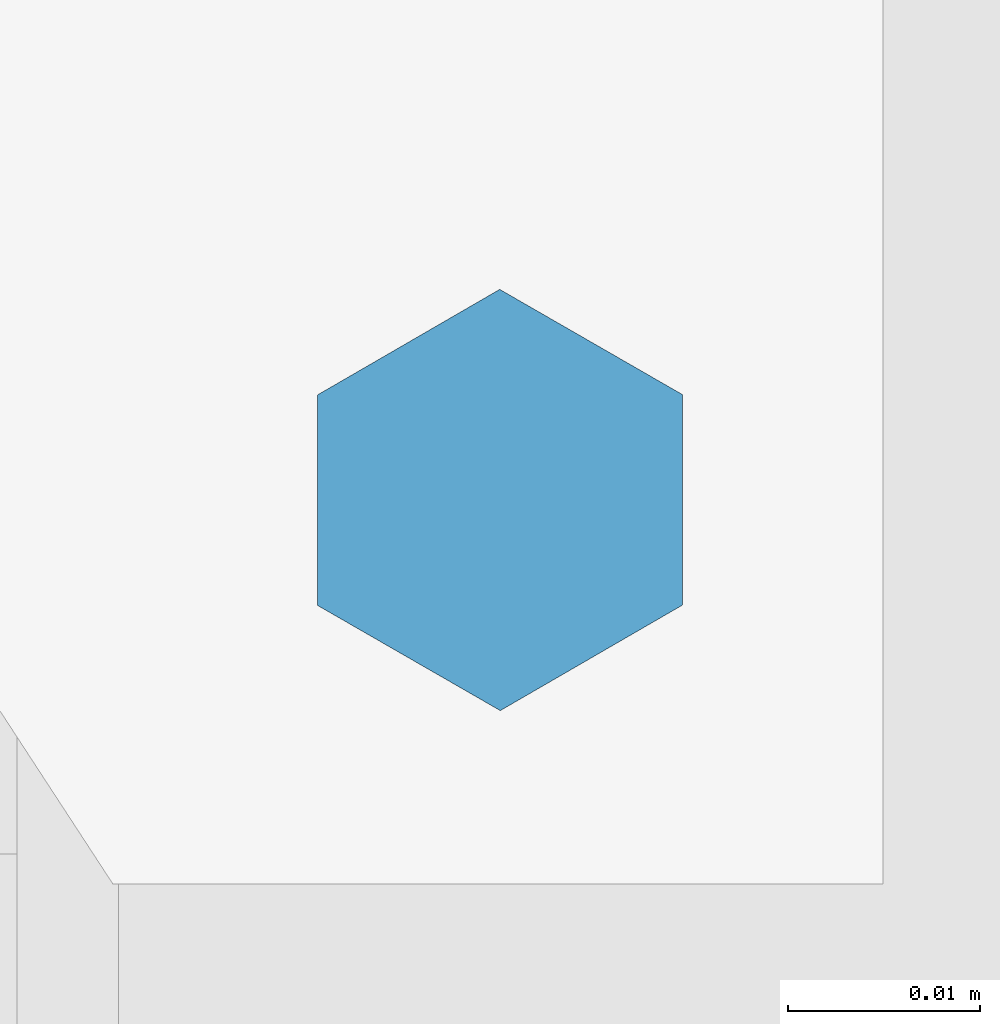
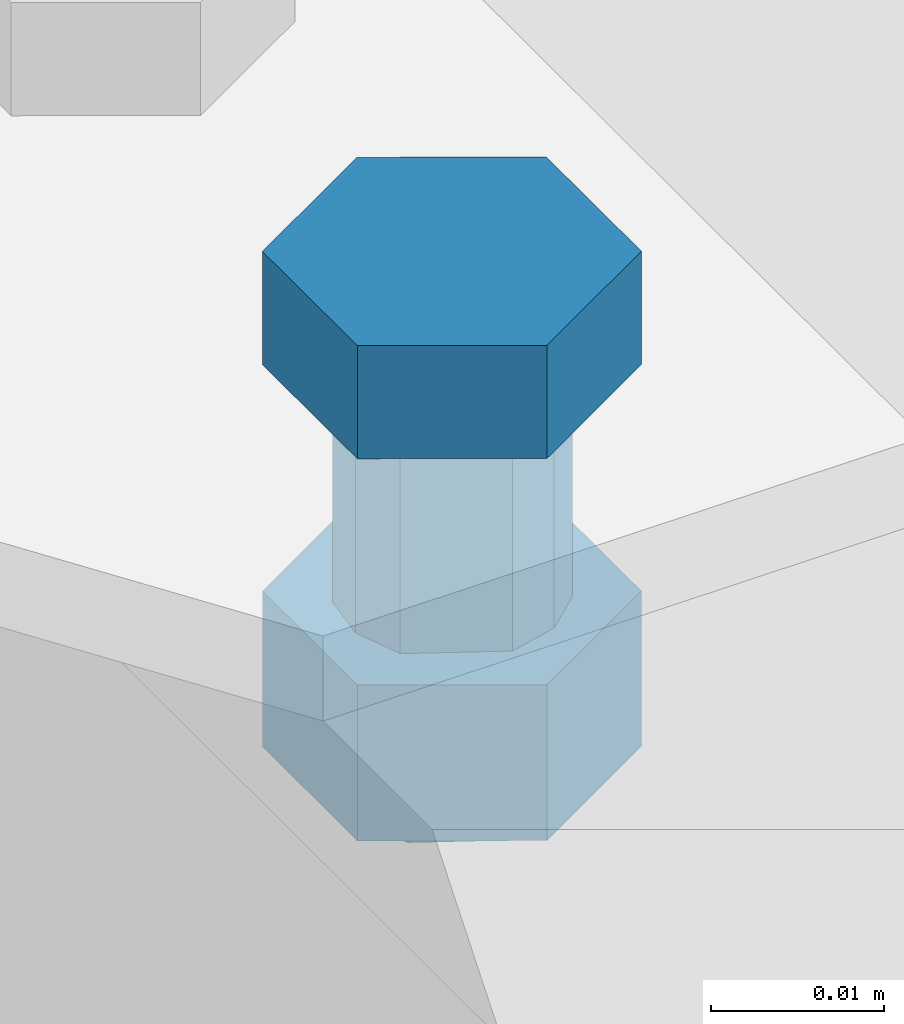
# One storey, part 18 of 18: 1 mechanical fastener.
"""IFC2X3 building model written with IfcOpenShell, lengths in millimetres."""

import ifcopenshell
import ifcopenshell.guid

model = None  # the IFC model being written
_history = None  # IfcOwnerHistory: only IFC2X3 demands one
_inside = {}  # id of a spatial element -> (the spatial element, [elements in it])
_under = {}  # id of a project, library or spatial element -> (it, [spatial elements below it])
_declared = {}  # id of a project -> (the project, [libraries it declares])
_typed = {}  # id of a type object -> (the type object, [elements of that type])
_made_of = {}  # id of a material, layer set ... -> (it, [elements and type objects made of it])


def new_model(schema):
    """Start an empty IFC model of exactly this schema.

    Asked for "IFC4X3", IfcOpenShell would pick the latest addendum, in which some entities
    have other attributes; the version numbers below select the first issue.
    IFC2X3 requires an IfcOwnerHistory on every rooted entity: one is made here for all.
    """
    global model, _history
    if schema == "IFC4X3":
        model = ifcopenshell.file(schema_version=(4, 3, 0, 0))
    else:
        model = ifcopenshell.file(schema=schema)
    _inside.clear()
    _under.clear()
    _declared.clear()
    _typed.clear()
    _made_of.clear()
    _history = None
    if model.schema == "IFC2X3":
        org = make("IfcOrganization", Name="unknown")
        user = make(
            "IfcPersonAndOrganization",
            ThePerson=make("IfcPerson", FamilyName="unknown"),
            TheOrganization=org,
        )
        app = make(
            "IfcApplication",
            ApplicationDeveloper=org,
            Version="unknown",
            ApplicationFullName="unknown",
            ApplicationIdentifier="unknown",
        )
        _history = make(
            "IfcOwnerHistory",
            OwningUser=user,
            OwningApplication=app,
            ChangeAction="ADDED",
            CreationDate=0,
        )
    return model


def make(cls, **values):
    """One entity of the class cls with the attributes given. An attribute that is None is left unset."""
    return model.create_entity(
        cls, **{name: value for name, value in values.items() if value is not None}
    )


def rooted(cls, **values):
    """An entity with a GlobalId (a new one), such as an element, a storey or a relation."""
    return make(cls, GlobalId=ifcopenshell.guid.new(), OwnerHistory=_history, **values)


def si_unit(unit_type, name, prefix=None):
    """IfcSIUnit, for example si_unit("LENGTHUNIT", "METRE", prefix="MILLI")."""
    return make("IfcSIUnit", UnitType=unit_type, Prefix=prefix, Name=name)


def assignment(units):
    """IfcUnitAssignment: the units of a project."""
    return None if units is None else make("IfcUnitAssignment", Units=units)


def point(xyz):
    """IfcCartesianPoint."""
    return None if xyz is None else make("IfcCartesianPoint", Coordinates=xyz)


def direction(xyz):
    """IfcDirection."""
    return None if xyz is None else make("IfcDirection", DirectionRatios=xyz)


def frame(location, z_axis=None, x_axis=None):
    """IfcAxis2Placement3D, a coordinate frame: its origin and axes. An axis left out is left unset."""
    return make(
        "IfcAxis2Placement3D",
        Location=point(location),
        Axis=direction(z_axis),
        RefDirection=direction(x_axis),
    )


def origin_with_axes():
    """The frame at (0, 0, 0) with the z axis (0, 0, 1) and the x axis (1, 0, 0) written out."""
    return frame((0.0, 0.0, 0.0), z_axis=(0.0, 0.0, 1.0), x_axis=(1.0, 0.0, 0.0))


def place(relative_to, where):
    """IfcLocalPlacement: puts the frame where relative to a parent placement (None: the world)."""
    return make(
        "IfcLocalPlacement", PlacementRelTo=relative_to, RelativePlacement=where
    )


def context(
    kind, dimensions, precision=None, world=None, true_north=None, identifier=None
):
    """IfcGeometricRepresentationContext, for example the 3D "Model" context."""
    return make(
        "IfcGeometricRepresentationContext",
        ContextIdentifier=identifier,
        ContextType=kind,
        CoordinateSpaceDimension=dimensions,
        Precision=precision,
        WorldCoordinateSystem=world,
        TrueNorth=true_north,
    )


def subcontext(parent, identifier, kind, view, scale=None):
    """IfcGeometricRepresentationSubContext, for example "Body" below "Model"."""
    return make(
        "IfcGeometricRepresentationSubContext",
        ContextIdentifier=identifier,
        ContextType=kind,
        ParentContext=parent,
        TargetScale=scale,
        TargetView=view,
    )


def project(units=None, contexts=None):
    """IfcProject with its units and contexts."""
    return rooted(
        "IfcProject",
        Name="project",
        RepresentationContexts=contexts,
        UnitsInContext=assignment(units),
    )


def spatial(cls, under=None, at=None, **own):
    """A site, building, storey or space (cls), placed at a placement, below another one or the project."""
    s = rooted(cls, ObjectPlacement=at, **own)
    if under is not None:
        _under.setdefault(under.id(), (under, []))[1].append(s)
    return s


def faces_of(points, faces, orient=None, outer=None):
    """IfcFace entities. A face is a list of loops; a loop is a list of indices into points, from 0.

    orient and outer hold one flag for each loop. By default every Orientation is true, the
    first loop of a face is its IfcFaceOuterBound and the others are IfcFaceBound.
    """
    made = []
    for i, loops in enumerate(faces):
        bounds = []
        for j, loop in enumerate(loops):
            is_outer = j == 0 if outer is None else outer[i][j]
            bounds.append(
                make(
                    "IfcFaceOuterBound" if is_outer else "IfcFaceBound",
                    Bound=make("IfcPolyLoop", Polygon=[points[k] for k in loop]),
                    Orientation=True if orient is None else orient[i][j],
                )
            )
        made.append(make("IfcFace", Bounds=bounds))
    return made


def faceted_brep(points, faces, orient=None, outer=None, voids=None):
    """IfcFacetedBrep: a solid bounded by flat faces; with voids (closed shells), ...WithVoids."""
    shared = [point(p) for p in points]
    hull = make("IfcClosedShell", CfsFaces=faces_of(shared, faces, orient, outer))
    if voids is None:
        return make("IfcFacetedBrep", Outer=hull)
    return make(
        "IfcFacetedBrepWithVoids",
        Outer=hull,
        Voids=[
            make(cls, CfsFaces=faces_of(shared, fs, o, b)) for cls, fs, o, b in voids
        ],
    )


def shape(context_of_items, identifier, shape_type, items):
    """IfcShapeRepresentation: the items that make up one representation, for example the "Body"."""
    return make(
        "IfcShapeRepresentation",
        ContextOfItems=context_of_items,
        RepresentationIdentifier=identifier,
        RepresentationType=shape_type,
        Items=items,
    )


def source(mapping_origin, context_of_items, identifier, shape_type, items):
    """IfcRepresentationMap: a shape defined once, which mapped items show again and again."""
    return make(
        "IfcRepresentationMap",
        MappingOrigin=mapping_origin,
        MappedRepresentation=shape(context_of_items, identifier, shape_type, items),
    )


def transform(
    local_origin,
    x_axis=None,
    y_axis=None,
    z_axis=None,
    scale=None,
    scale2=None,
    scale3=None,
    uniform=True,
):
    """IfcCartesianTransformationOperator3D, or its non-uniform kind. x_axis, y_axis, z_axis: its Axis1, 2, 3."""
    if uniform:
        return make(
            "IfcCartesianTransformationOperator3D",
            Axis1=direction(x_axis),
            Axis2=direction(y_axis),
            LocalOrigin=point(local_origin),
            Scale=scale,
            Axis3=direction(z_axis),
        )
    return make(
        "IfcCartesianTransformationOperator3DnonUniform",
        Axis1=direction(x_axis),
        Axis2=direction(y_axis),
        LocalOrigin=point(local_origin),
        Scale=scale,
        Axis3=direction(z_axis),
        Scale2=scale2,
        Scale3=scale3,
    )


def mapped(mapping_source, mapping_target):
    """IfcMappedItem: shows the shape of a source again, moved by a transform."""
    return make(
        "IfcMappedItem", MappingSource=mapping_source, MappingTarget=mapping_target
    )


def made_of(thing, what):
    """Note that an element or type object is made of a material, layer set ...; save() writes the relation."""
    if what is not None:
        _made_of.setdefault(what.id(), (what, []))[1].append(thing)
    return thing


def type_object(cls, material=None, **own):
    """A type object (cls), such as IfcWallType, which elements share."""
    return made_of(rooted(cls, **own), material)


def element(
    cls,
    number,
    at=None,
    inside=None,
    cuts=None,
    type_object=None,
    material=None,
    context=None,
    identifier="Body",
    shape_type=None,
    held_by="IfcProductDefinitionShape",
    body=None,
    shapes=None,
    **own,
):
    """One element of the class cls, such as IfcWall. Its Tag is "e" and its number.

    at: its placement. inside: the storey or other place that contains it. cuts: it is an
    opening in that element (IfcRelVoidsElement). A single representation is given by context,
    identifier, shape_type and body (its items); several are given by shapes. held_by: the class
    of the entity that holds the representations. save() writes the other relations.
    """
    e = rooted(cls, Tag="e%d" % number, ObjectPlacement=at, **own)
    if body is not None:
        shapes = [shape(context, identifier, shape_type, body)]
    if shapes is not None:
        e.Representation = make(held_by, Representations=shapes)
    if inside is not None:
        _inside.setdefault(inside.id(), (inside, []))[1].append(e)
    if cuts is not None:
        rooted(
            "IfcRelVoidsElement", RelatingBuildingElement=cuts, RelatedOpeningElement=e
        )
    if type_object is not None:
        _typed.setdefault(type_object.id(), (type_object, []))[1].append(e)
    return made_of(e, material)


def aggregate(whole, parts):
    """IfcRelAggregates: a whole, such as a stair, and the parts it consists of."""
    return rooted("IfcRelAggregates", RelatingObject=whole, RelatedObjects=parts)


def save(model, path):
    """Write the relations noted so far, then the file.

    IfcRelAggregates (storeys below a building ...), IfcRelContainedInSpatialStructure (elements
    in a storey), IfcRelDefinesByType, IfcRelAssociatesMaterial and IfcRelDeclares: one each for
    every whole, place, type object, material and project.
    """
    for whole, parts in _under.values():
        aggregate(whole, parts)
    for where, things in _inside.values():
        rooted(
            "IfcRelContainedInSpatialStructure",
            RelatedElements=things,
            RelatingStructure=where,
        )
    for kind, things in _typed.values():
        rooted("IfcRelDefinesByType", RelatedObjects=things, RelatingType=kind)
    for what, things in _made_of.values():
        rooted("IfcRelAssociatesMaterial", RelatedObjects=things, RelatingMaterial=what)
    for by, libraries in _declared.values():
        rooted("IfcRelDeclares", RelatingContext=by, RelatedDefinitions=libraries)
    model.write(path)


model = new_model("IFC2X3")

# Units and contexts
model_context = context("Model", 3, precision=1e-05, world=origin_with_axes())
body_context = subcontext(model_context, "Body", "Model", "MODEL_VIEW")
ifc_project = project(units=[si_unit("LENGTHUNIT", "METRE", prefix="MILLI"), si_unit("AREAUNIT", "SQUARE_METRE"), si_unit("VOLUMEUNIT", "CUBIC_METRE"), si_unit("MASSUNIT", "GRAM", prefix="KILO"), si_unit("TIMEUNIT", "SECOND"), si_unit("PLANEANGLEUNIT", "RADIAN"), si_unit("SOLIDANGLEUNIT", "STERADIAN"), si_unit("THERMODYNAMICTEMPERATUREUNIT", "DEGREE_CELSIUS"), si_unit("LUMINOUSINTENSITYUNIT", "LUMEN")], contexts=[model_context])

# Site, building, storey
site_placement = place(None, origin_with_axes())
site = spatial("IfcSite", under=ifc_project, at=site_placement, Name="Undefined", CompositionType="ELEMENT")
building_placement = place(site_placement, origin_with_axes())
building = spatial("IfcBuilding", under=site, at=building_placement, Name="Undefined", CompositionType="ELEMENT")
storey_placement = place(building_placement, origin_with_axes())
storey = spatial("IfcBuildingStorey", under=building, at=storey_placement, Name="Undefined", CompositionType="ELEMENT", Elevation=0.0)

# Mechanical fastener
mechanical_fastener_type = type_object("IfcMechanicalFastenerType", Name="Bolt assembly")
shared_shape = source(origin_with_axes(), body_context, "Body", "Brep", [
    faceted_brep([(10.96965511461, -14.0, 0.0), (5.484827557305, -14.0, 9.50000000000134), (-5.484827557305, -14.0, 9.50000000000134), (-10.96965511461, -14.0, 0.0), (-5.484827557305, -14.0, -9.50000000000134), (5.484827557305, -14.0, -9.50000000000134), (5.484827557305, -6.0, -9.50000000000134), (-5.484827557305, -6.0, -9.50000000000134), (-10.96965511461, -6.0, 0.0), (-5.484827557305, -6.0, 9.50000000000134), (5.484827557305, -6.0, 9.50000000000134), (10.96965511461, -6.0, 0.0), (6.0, -6.0, 0.0), (5.31273615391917, -6.0, 2.78833903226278), (3.40838848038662, -6.0, 4.93790319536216), (0.723220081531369, -6.0, 5.95625324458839), (-2.12762932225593, -6.0, 5.61009745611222), (-4.49106448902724, -6.0, 3.97873594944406), (-5.82565090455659, -6.0, 1.43589398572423), (-5.82565090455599, -6.0, -1.43589398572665), (-4.49106448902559, -6.0, -3.97873594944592), (-2.12762932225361, -6.0, -5.6100974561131), (0.723220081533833, -6.0, -5.95625324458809), (3.40838848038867, -6.0, -4.93790319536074), (3.40838848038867, 24.0, -4.93790319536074), (0.723220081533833, 24.0, -5.95625324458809), (-2.12762932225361, 24.0, -5.6100974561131), (-4.49106448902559, 24.0, -3.97873594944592), (-5.82565090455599, 24.0, -1.43589398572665), (-5.82565090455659, 24.0, 1.43589398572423), (-4.49106448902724, 24.0, 3.97873594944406), (-2.12762932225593, 24.0, 5.61009745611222), (0.723220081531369, 24.0, 5.95625324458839), (3.40838848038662, 24.0, 4.93790319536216), (5.31273615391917, 24.0, 2.78833903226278), (6.0, 24.0, 0.0), (10.96965511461, 9.99999999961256, 0.0), (5.484827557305, 9.99999999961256, 9.50000000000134), (-5.484827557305, 9.99999999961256, 9.50000000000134), (-10.96965511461, 9.99999999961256, 0.0), (-5.484827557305, 9.99999999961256, -9.50000000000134), (5.484827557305, 9.99999999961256, -9.50000000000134), (5.484827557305, 20.9999999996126, -9.50000000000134), (-5.484827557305, 20.9999999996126, -9.50000000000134), (-10.96965511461, 20.9999999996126, 0.0), (-5.484827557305, 20.9999999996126, 9.50000000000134), (5.484827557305, 20.9999999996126, 9.50000000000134), (10.96965511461, 20.9999999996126, 0.0)], [[[0, 1, 2, 3, 4, 5]], [[6, 7, 8, 9, 10, 11]], [[0, 11, 10, 1]], [[1, 10, 9, 2]], [[2, 9, 8, 3]], [[3, 8, 7, 4]], [[4, 7, 6, 5]], [[5, 6, 11, 0]], [[12, 13, 14, 15, 16, 17, 18, 19, 20, 21, 22, 23]], [[24, 25, 26, 27, 28, 29, 30, 31, 32, 33, 34, 35]], [[12, 35, 34, 13]], [[13, 34, 33, 14]], [[14, 33, 32, 15]], [[15, 32, 31, 16]], [[16, 31, 30, 17]], [[17, 30, 29, 18]], [[18, 29, 28, 19]], [[19, 28, 27, 20]], [[20, 27, 26, 21]], [[21, 26, 25, 22]], [[22, 25, 24, 23]], [[23, 24, 35, 12]], [[36, 37, 38, 39, 40, 41]], [[42, 43, 44, 45, 46, 47]], [[36, 47, 46, 37]], [[37, 46, 45, 38]], [[38, 45, 44, 39]], [[39, 44, 43, 40]], [[40, 43, 42, 41]], [[41, 42, 47, 36]]]),
    faceted_brep([(7.0, -0.100000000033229, 0.0), (6.19819217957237, -0.100000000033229, 3.25306220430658), (3.97645322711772, -0.100000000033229, 5.76088706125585), (0.843756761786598, -0.100000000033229, 6.94896211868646), (-2.48223420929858, -0.100000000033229, 6.54511369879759), (-5.23957523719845, -0.100000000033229, 4.64185860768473), (-6.79659272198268, -0.100000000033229, 1.67520965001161), (-6.79659272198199, -0.100000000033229, -1.67520965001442), (-5.23957523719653, -0.100000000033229, -4.6418586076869), (-2.48223420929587, -0.100000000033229, -6.54511369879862), (0.843756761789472, -0.100000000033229, -6.94896211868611), (3.97645322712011, -0.100000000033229, -5.7608870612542), (3.97645322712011, 9.99999999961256, -5.7608870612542), (0.843756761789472, 9.99999999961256, -6.94896211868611), (-2.48223420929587, 9.99999999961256, -6.54511369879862), (-5.23957523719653, 9.99999999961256, -4.6418586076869), (-6.79659272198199, 9.99999999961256, -1.67520965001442), (-6.79659272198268, 9.99999999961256, 1.67520965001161), (-5.23957523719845, 9.99999999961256, 4.64185860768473), (-2.48223420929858, 9.99999999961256, 6.54511369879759), (0.843756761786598, 9.99999999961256, 6.94896211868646), (3.97645322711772, 9.99999999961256, 5.76088706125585), (6.19819217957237, 9.99999999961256, 3.25306220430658), (7.0, 9.99999999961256, 0.0), (7.0, -5.9, 0.0), (6.19819217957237, -5.9, 3.25306220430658), (3.97645322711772, -5.9, 5.76088706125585), (0.843756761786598, -5.9, 6.94896211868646), (-2.48223420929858, -5.9, 6.54511369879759), (-5.23957523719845, -5.9, 4.64185860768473), (-6.79659272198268, -5.9, 1.67520965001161), (-6.79659272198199, -5.9, -1.67520965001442), (-5.23957523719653, -5.9, -4.6418586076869), (-2.48223420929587, -5.9, -6.54511369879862), (0.843756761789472, -5.9, -6.94896211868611), (3.97645322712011, -5.9, -5.7608870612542), (3.97645322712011, 0.100000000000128, -5.7608870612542), (0.843756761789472, 0.100000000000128, -6.94896211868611), (-2.48223420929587, 0.100000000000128, -6.54511369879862), (-5.23957523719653, 0.100000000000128, -4.6418586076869), (-6.79659272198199, 0.100000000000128, -1.67520965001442), (-6.79659272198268, 0.100000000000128, 1.67520965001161), (-5.23957523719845, 0.100000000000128, 4.64185860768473), (-2.48223420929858, 0.100000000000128, 6.54511369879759), (0.843756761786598, 0.100000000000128, 6.94896211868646), (3.97645322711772, 0.100000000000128, 5.76088706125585), (6.19819217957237, 0.100000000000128, 3.25306220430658), (7.0, 0.100000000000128, 0.0)], [[[0, 1, 2, 3, 4, 5, 6, 7, 8, 9, 10, 11]], [[12, 13, 14, 15, 16, 17, 18, 19, 20, 21, 22, 23]], [[0, 23, 22, 1]], [[1, 22, 21, 2]], [[2, 21, 20, 3]], [[3, 20, 19, 4]], [[4, 19, 18, 5]], [[5, 18, 17, 6]], [[6, 17, 16, 7]], [[7, 16, 15, 8]], [[8, 15, 14, 9]], [[9, 14, 13, 10]], [[10, 13, 12, 11]], [[11, 12, 23, 0]], [[24, 25, 26, 27, 28, 29, 30, 31, 32, 33, 34, 35]], [[36, 37, 38, 39, 40, 41, 42, 43, 44, 45, 46, 47]], [[24, 47, 46, 25]], [[25, 46, 45, 26]], [[26, 45, 44, 27]], [[27, 44, 43, 28]], [[28, 43, 42, 29]], [[29, 42, 41, 30]], [[30, 41, 40, 31]], [[31, 40, 39, 32]], [[32, 39, 38, 33]], [[33, 38, 37, 34]], [[34, 37, 36, 35]], [[35, 36, 47, 24]]]),
])
mechanical_fastener_placement = place(storey_placement, frame((-74.8381518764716, 33.4389508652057, 5513.99941189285), z_axis=(0.999999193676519, 0.00126990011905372, -4.27462549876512e-14), x_axis=(0.00126990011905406, -0.999999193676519, 8.1854523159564e-13)))
element("IfcMechanicalFastener", 1, at=mechanical_fastener_placement, inside=storey, type_object=mechanical_fastener_type, Name="Bolt assembly", NominalDiameter=12.0, NominalLength=40.0, context=body_context, shape_type="MappedRepresentation", body=[
    mapped(shared_shape, transform((0.0, 0.0, 0.0))),
])

save(model, "model.ifc")
